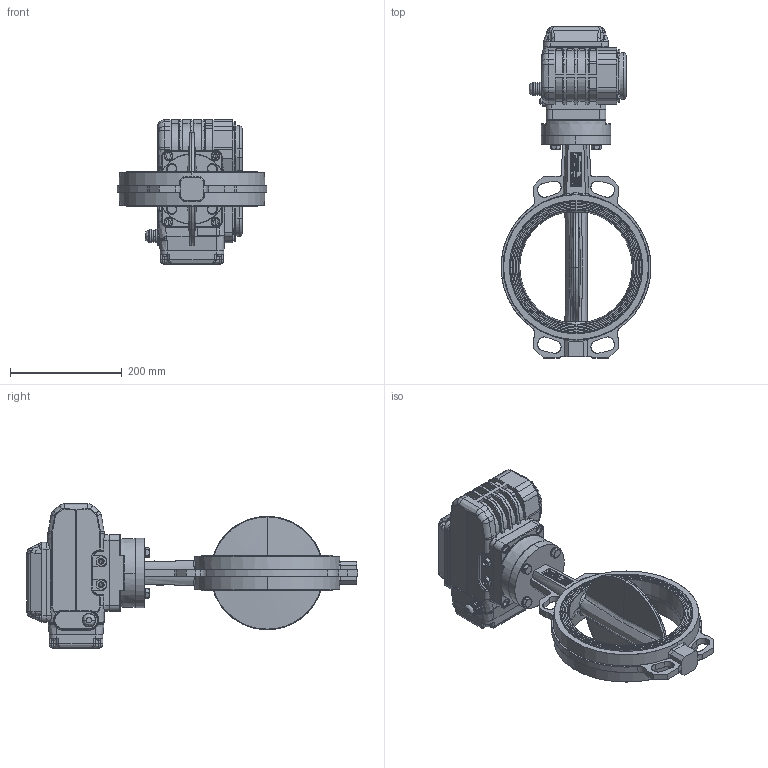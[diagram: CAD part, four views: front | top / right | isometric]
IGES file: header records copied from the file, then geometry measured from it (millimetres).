
Start section: SolidWorks IGES file using analytic representation for surfaces
Global section: file name: H:\BE FABRICATION\BE SERIE\VP\VP SERIE\F072 VPG\plan 3D\VPG-N04\WAFER\DN200\VPG444X-NX4XX0200.igs; native system: SolidWorks 2020; preprocessor: SolidWorks 2020; author: k.gigout; date: 220706.095738; units: millimetre
Bounding box: 267.8 x 593.39 x 258 mm (x, y, z)
Surface area: 508964.5 mm2 (no closed solid volume)
Topology: 0 solids, 0 shells, 1211 faces, 23309 edges, 23284 vertices
Faces by surface type: bspline 738, revolution 473
